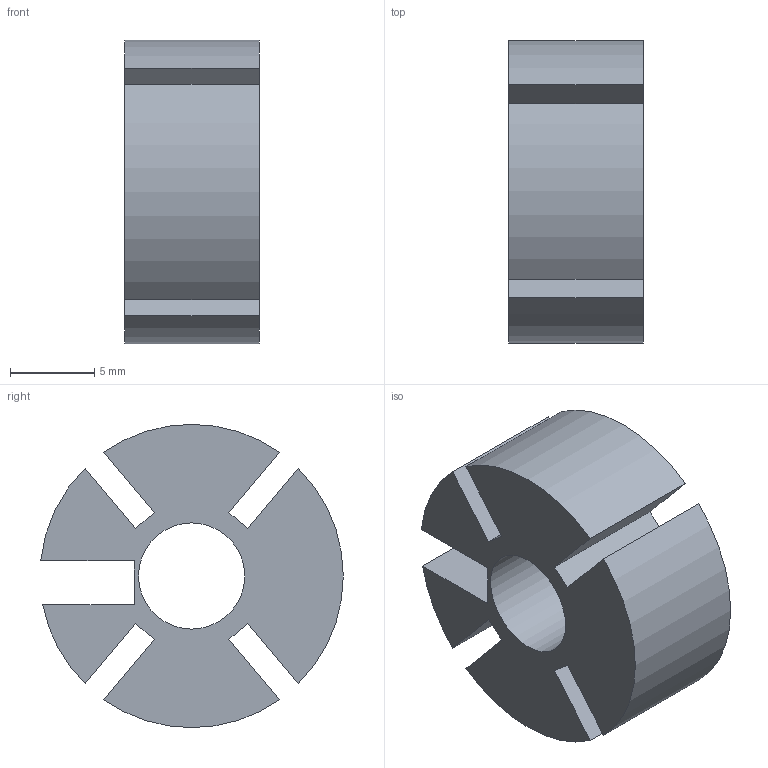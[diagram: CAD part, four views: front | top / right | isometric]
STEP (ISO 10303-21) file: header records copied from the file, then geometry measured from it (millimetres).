
FILE_DESCRIPTION(('Open CASCADE Model'),'2;1');
FILE_NAME('Open CASCADE Shape Model','2026-10-21T17:27:39',('Author'),( 'Open CASCADE'),'Open CASCADE STEP processor 7.9','Open CASCADE 7.9' ,'Unknown');
FILE_SCHEMA(('AUTOMOTIVE_DESIGN { 1 0 10303 214 1 1 1 1 }'));
Length unit declared in the file: millimetre
Products named in the file (1): Open CASCADE STEP translator 7.9 14
Bounding box: 8 x 17.95 x 18 mm (x, y, z)
Volume: 1453.1 mm3; surface area: 1360.7 mm2
Topology: 1 solids, 1 shells, 23 faces, 63 edges, 42 vertices
Faces by surface type: plane 17, cylinder 6
Full cylindrical faces by diameter (mm): 6.3 x1
Entity records: 1485 total; most frequent: CARTESIAN_POINT 341, DIRECTION 168, ORIENTED_EDGE 126, PCURVE 126, DEFINITIONAL_REPRESENTATION 126, LINE 85, VECTOR 85, B_SPLINE_CURVE_WITH_KNOTS 80
